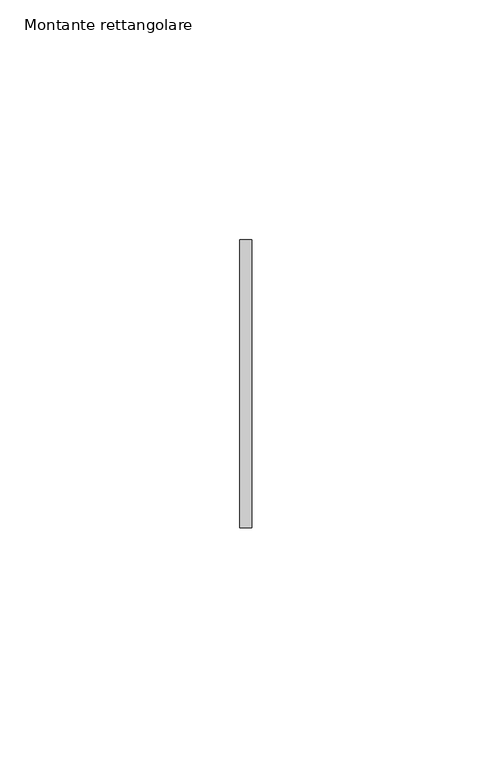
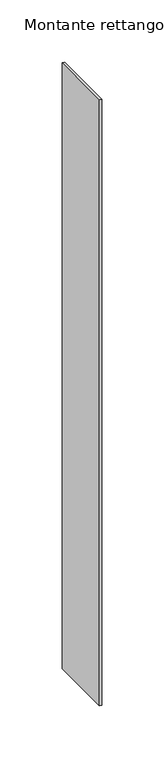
"""IFC4 building model written with IfcOpenShell, lengths in millimetres: member geometry, Montante rettangolare : Verde Profilo's Coverage."""

from ifc_helpers import new_model, si_unit, frame, origin, place, context, project, spatial, polyline, outline, extrude, source, transform, mapped, element, save


def montante_rettangolare_babdd543(model_context):
    return source(origin(), model_context, "Body", "SweptSolid", [
        extrude(outline(polyline([(-2.4801246, -60.0), (-2.4801246, 0.0), (0.0, 0.0), (0.0, -60.0), (-2.4801246, -60.0)])), frame((0.0, 0.0, -596.2404059), z_axis=(0.0, 0.0, 1.0), x_axis=(1.0, 0.0, 0.0)), (0.0, 0.0, 1.0), 596.2404059),
    ])


if __name__ == "__main__":
    model = new_model("IFC4")
    model_context = context("Model", 3, world=origin())
    ifc_project = project(units=[si_unit("LENGTHUNIT", "METRE", prefix="MILLI")], contexts=[model_context])
    site = spatial("IfcSite", under=ifc_project)
    building = spatial("IfcBuilding", under=site)
    placement = place(None, origin())
    montante_rettangolare_shape = montante_rettangolare_babdd543(model_context)
    element("IfcMember", 1, ObjectType="Montante rettangolare : Verde Profilo's Coverage", at=placement, inside=building, context=model_context, shape_type="MappedRepresentation", body=[
        mapped(montante_rettangolare_shape, transform((0.0, 0.0, 0.0), x_axis=(1.0, 0.0, 0.0), y_axis=(0.0, 1.0, 0.0), z_axis=(0.0, 0.0, 1.0))),
    ])
    save(model, "model.ifc")
